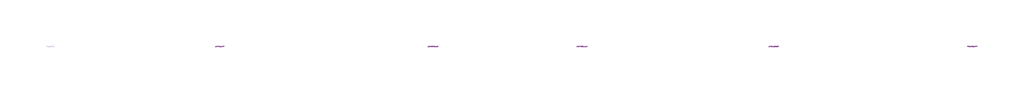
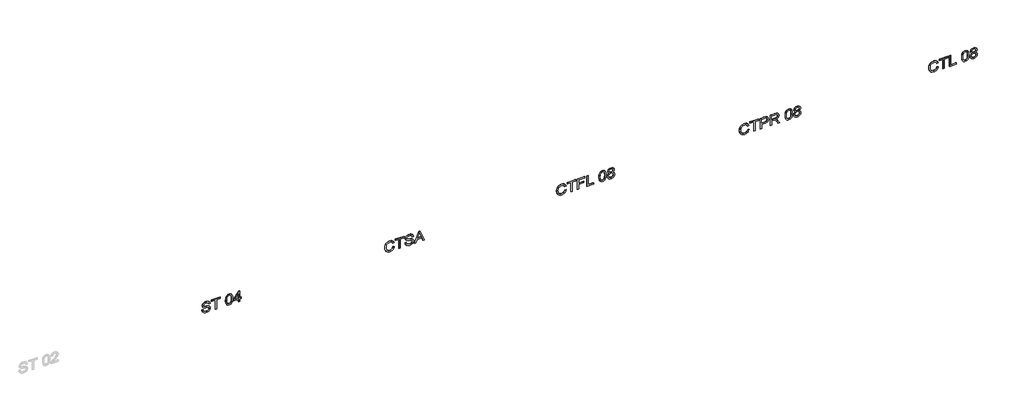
# One storey, part 2 of 2: 5 proxies.
"""IFC4 building model written with IfcOpenShell, lengths in millimetres."""

from ifc_helpers import new_model, si_unit, frame, origin, place, context, project, spatial, polyline, outline, extrude, element, save

model = new_model("IFC4")

# Units and contexts
model_context = context("Model", 3, world=origin())
ifc_project = project(units=[si_unit("LENGTHUNIT", "METRE", prefix="MILLI")], contexts=[model_context])

# Site, building, storey
site = spatial("IfcSite", under=ifc_project)
building = spatial("IfcBuilding", under=site)
storey = spatial("IfcBuildingStorey", under=building, Name="04 - Marelli - Planta Baixa - Acessórios", Elevation=-36000.0)

# Proxies
placement = place(None, origin())
element("IfcBuildingElementProxy", 1, Name="300mm Arial", ObjectType="300mm Arial", at=placement, inside=storey, context=model_context, shape_type="SweptSolid", body=[
    extrude(outline(polyline([(-30192.872763, 28437.0914479), (-30225.136014, 28424.9053568), (-30248.3493679, 28405.1225025), (-30262.3656719, 28378.9201074), (-30267.0377732, 28347.4753938), (-30263.6072736, 28320.5004465), (-30253.3157748, 28295.4936679), (-30236.0897004, 28274.6347588), (-30211.855474, 28260.10342), (-30181.7627268, 28251.5777547), (-30146.96109, 28248.7358663), (-30118.5422059, 28251.1362964), (-30090.9694503, 28258.3375864), (-30066.5788741, 28271.4617766), (-30047.7065277, 28291.630907), (-30035.6216042, 28318.2103811), (-30031.5932963, 28350.5656026), (-30035.226131, 28378.6349988), (-30046.1246351, 28401.4804707), (-30064.9693903, 28419.3227475), (-30092.4409783, 28432.3825583), (-30083.4646576, 28470.0536746), (-30045.6463885, 28453.4162114), (-30030.3241034, 28441.6140971), (-30017.3930513, 28427.4897278), (-30007.1245451, 28411.3098178), (-29999.7898978, 28393.3410816), (-29993.92218, 28352.0371306), (-29998.4563256, 28314.1820733), (-30012.0587624, 28279.6379539), (-30034.3983965, 28250.510897), (-30065.1441343, 28228.9070268), (-30103.0911621, 28215.5253192), (-30147.0346664, 28211.06475), (-30188.6973024, 28215.0102844), (-30227.6008233, 28226.8468876), (-30260.6918088, 28246.2342688), (-30284.9168382, 28272.832137), (-30299.7608767, 28307.5326062), (-30304.7088895, 28351.2277902), (-30303.0741139, 28373.6501978), (-30298.1697871, 28394.2699836), (-30289.995909, 28413.0871477), (-30278.5524797, 28430.10169), (-30263.995849, 28444.9779181), (-30246.4823668, 28457.3801399), (-30226.012033, 28467.3083552), (-30202.5848477, 28474.7625642), (-30192.872763, 28437.0914479)])), frame((0.0, 8778.3159498, 0.0), z_axis=(0.0, 1.0, 0.0), x_axis=(0.0, 0.0, 1.0)), (0.0, 0.0, 1.0), 10.0),
    extrude(outline(polyline([(-30300.0, 28601.9025817), (-30300.0, 28639.573698), (-30036.3021859, 28639.573698), (-30036.3021859, 28738.4603783), (-29998.6310696, 28738.4603783), (-29998.6310696, 28503.0159014), (-30036.3021859, 28503.0159014), (-30036.3021859, 28601.9025817), (-30300.0, 28601.9025817)])), frame((0.0, 8778.3159498, 0.0), z_axis=(0.0, 1.0, 0.0), x_axis=(0.0, 0.0, 1.0)), (0.0, 0.0, 1.0), 10.0),
    extrude(outline(polyline([(-30300.0, 28780.8403842), (-30300.0, 28969.1959657), (-30262.3288837, 28969.1959657), (-30262.3288837, 28818.5115005), (-29998.6310696, 28818.5115005), (-29998.6310696, 28780.8403842), (-30300.0, 28780.8403842)])), frame((0.0, 8778.3159498, 0.0), z_axis=(0.0, 1.0, 0.0), x_axis=(0.0, 0.0, 1.0)), (0.0, 0.0, 1.0), 10.0),
    extrude(outline(polyline([(-30151.7435559, 29115.1715414), (-30191.1851044, 29117.0477395), (-30225.0440435, 29122.6763341), (-30253.3203733, 29132.057325), (-30276.0140939, 29145.1907122), (-30288.568067, 29158.8759224), (-30297.5351906, 29174.9155774), (-30302.9154648, 29193.3096771), (-30304.7088895, 29214.0582217), (-30300.5794141, 29244.5096538), (-30288.190988, 29269.2037328), (-30267.4056552, 29288.3060054), (-30238.0854602, 29301.9820185), (-30199.7061711, 29310.2041811), (-30151.7435559, 29312.944902), (-30111.7823742, 29311.2342507), (-30080.9262719, 29306.1022969), (-30056.6276661, 29298.2664104), (-30036.3389741, 29288.4439611), (-30020.1981515, 29275.4393326), (-30008.3431542, 29258.0569083), (-30001.0590907, 29237.2715756), (-29998.6310696, 29214.0582217), (-30002.7329538, 29183.7723364), (-30015.0386065, 29159.1334398), (-30035.7411658, 29140.003576), (-30065.0337697, 29126.2447894), (-30103.5050293, 29117.9398534), (-30151.7435559, 29115.1715414)]), holes=[polyline([(-30151.6699795, 29152.8426577), (-30093.1767423, 29157.4043944), (-30072.097104, 29163.1065653), (-30056.4621192, 29171.0896046), (-30041.3421692, 29190.0355274), (-30036.3021859, 29213.6167633), (-30042.0227509, 29238.5223744), (-30059.184446, 29258.2040611), (-30073.5456393, 29265.6720656), (-30093.7469594, 29271.0063545), (-30151.6699795, 29275.2737857), (-30210.8346014, 29270.8592017), (-30231.0980016, 29265.3409718), (-30245.1487945, 29257.6154499), (-30261.5655286, 29237.896975), (-30267.0377732, 29214.0582217), (-30261.5839227, 29190.2194684), (-30245.2223709, 29170.5009934), (-30231.1945706, 29162.7754715), (-30210.9265719, 29157.2572416), (-30151.6699795, 29152.8426577)])]), frame((0.0, 8778.3159498, 0.0), z_axis=(0.0, 1.0, 0.0), x_axis=(0.0, 0.0, 1.0)), (0.0, 0.0, 1.0), 10.0),
    extrude(outline(polyline([(-30134.0116438, 29400.7951224), (-30144.4962806, 29377.4714039), (-30161.3820642, 29360.1809502), (-30183.8964423, 29349.4755841), (-30211.2668628, 29345.9071287), (-30230.4174199, 29347.608583), (-30247.9171065, 29352.7129457), (-30263.7659227, 29361.2202168), (-30277.9638685, 29373.1303964), (-30289.6648152, 29387.818085), (-30298.0226343, 29404.6578834), (-30303.0373257, 29423.6497914), (-30304.7088895, 29444.7938091), (-30303.0442235, 29465.9378267), (-30298.0502254, 29484.9297347), (-30289.7268953, 29501.7695331), (-30278.0742331, 29516.4572217), (-30263.9751556, 29528.3674013), (-30248.3125797, 29536.8746724), (-30231.0865053, 29541.9790351), (-30212.2969324, 29543.6804894), (-30185.9473844, 29540.2499898), (-30163.552568, 29529.9584909), (-30145.9586116, 29513.0819044), (-30134.0116438, 29489.8961417), (-30124.1064211, 29509.4214786), (-30110.7247135, 29523.2630386), (-30094.2895853, 29531.5127924), (-30075.2241009, 29534.2627103), (-30059.8282394, 29532.7176059), (-30045.6463885, 29528.0822928), (-30032.6785482, 29520.3567709), (-30020.9247185, 29509.5410402), (-30011.1712471, 29496.1915223), (-30004.2044818, 29480.8646387), (-29998.6310696, 29444.2787743), (-30004.0757231, 29407.913639), (-30010.88154, 29392.7523023), (-30020.4096837, 29379.6051195), (-30031.9381857, 29368.9825269), (-30044.7450776, 29361.3949607), (-30058.8303595, 29356.8424211), (-30074.1940314, 29355.3249078), (-30093.8941122, 29358.1116139), (-30110.6143489, 29366.4717323), (-30124.0788299, 29380.625992), (-30134.0116438, 29400.7951224)]), holes=[polyline([(-30075.2976773, 29392.9960241), (-30060.3984565, 29396.3897355), (-30047.7801041, 29406.5708698), (-30039.1716654, 29422.9140274), (-30036.3021859, 29444.7938091), (-30039.2360448, 29466.535635), (-30048.0376215, 29482.9063838), (-30061.1434176, 29493.1702914), (-30076.9899345, 29496.591594), (-30092.2570373, 29493.280656), (-30104.9489662, 29483.3478421), (-30113.5022225, 29467.1978226), (-30116.353308, 29445.2352674), (-30113.4838284, 29422.7484805), (-30104.8753898, 29406.3501406), (-30091.7420025, 29396.3345532), (-30075.2976773, 29392.9960241)]), polyline([(-30209.9424876, 29383.5782451), (-30187.9615384, 29387.5605677), (-30169.9905029, 29399.5075354), (-30158.015944, 29418.5546257), (-30154.0244243, 29443.8373159), (-30158.0711263, 29469.7729965), (-30170.2112321, 29489.4546833), (-30188.5317555, 29501.8707006), (-30211.11971, 29506.009373), (-30233.3305854, 29501.9994593), (-30251.2556356, 29489.9697181), (-30263.0922388, 29470.7294897), (-30267.0377732, 29445.0881146), (-30265.1615751, 29428.3494839), (-30259.5329805, 29412.1258879), (-30250.4738864, 29398.5786334), (-30238.3061894, 29389.8690272), (-30209.9424876, 29383.5782451)])]), frame((0.0, 8778.3159498, 0.0), z_axis=(0.0, 1.0, 0.0), x_axis=(0.0, 0.0, 1.0)), (0.0, 0.0, 1.0), 10.0),
])
element("IfcBuildingElementProxy", 2, Name="300mm Arial", ObjectType="300mm Arial", at=placement, inside=storey, context=model_context, shape_type="SweptSolid", body=[
    extrude(outline(polyline([(-30192.872763, 23262.8625349), (-30225.136014, 23250.6764439), (-30248.3493679, 23230.8935896), (-30262.3656719, 23204.6911945), (-30267.0377732, 23173.2464809), (-30263.6072736, 23146.2715336), (-30253.3157748, 23121.264755), (-30236.0897004, 23100.4058459), (-30211.855474, 23085.8745071), (-30181.7627268, 23077.3488418), (-30146.96109, 23074.5069534), (-30118.5422059, 23076.9073834), (-30090.9694503, 23084.1086735), (-30066.5788741, 23097.2328637), (-30047.7065277, 23117.4019941), (-30035.6216042, 23143.9814682), (-30031.5932963, 23176.3366897), (-30035.226131, 23204.4060859), (-30046.1246351, 23227.2515578), (-30064.9693903, 23245.0938346), (-30092.4409783, 23258.1536454), (-30083.4646576, 23295.8247617), (-30045.6463885, 23279.1872985), (-30030.3241034, 23267.3851842), (-30017.3930513, 23253.2608149), (-30007.1245451, 23237.0809049), (-29999.7898978, 23219.1121687), (-29993.92218, 23177.8082177), (-29998.4563256, 23139.9531604), (-30012.0587624, 23105.409041), (-30034.3983965, 23076.281984), (-30065.1441343, 23054.6781139), (-30103.0911621, 23041.2964063), (-30147.0346664, 23036.8358371), (-30188.6973024, 23040.7813715), (-30227.6008233, 23052.6179747), (-30260.6918088, 23072.0053559), (-30284.9168382, 23098.6032241), (-30299.7608767, 23133.3036933), (-30304.7088895, 23176.9988773), (-30303.0741139, 23199.4212849), (-30298.1697871, 23220.0410707), (-30289.995909, 23238.8582348), (-30278.5524797, 23255.872777), (-30263.995849, 23270.7490052), (-30246.4823668, 23283.151227), (-30226.012033, 23293.0794423), (-30202.5848477, 23300.5336513), (-30192.872763, 23262.8625349)])), frame((0.0, 8778.3159498, 0.0), z_axis=(0.0, 1.0, 0.0), x_axis=(0.0, 0.0, 1.0)), (0.0, 0.0, 1.0), 10.0),
    extrude(outline(polyline([(-30300.0, 23427.6736688), (-30300.0, 23465.3447851), (-30036.3021859, 23465.3447851), (-30036.3021859, 23564.2314654), (-29998.6310696, 23564.2314654), (-29998.6310696, 23328.7869885), (-30036.3021859, 23328.7869885), (-30036.3021859, 23427.6736688), (-30300.0, 23427.6736688)])), frame((0.0, 8778.3159498, 0.0), z_axis=(0.0, 1.0, 0.0), x_axis=(0.0, 0.0, 1.0)), (0.0, 0.0, 1.0), 10.0),
    extrude(outline(polyline([(-30300.0, 23606.6114712), (-30300.0, 23644.2825875), (-30177.568872, 23644.2825875), (-30177.568872, 23720.8756189), (-30175.904206, 23750.073953), (-30170.9102079, 23774.3932522), (-30162.5868778, 23793.8335164), (-30150.9342156, 23808.3947456), (-30136.8765248, 23819.0012434), (-30121.338109, 23826.5773132), (-30104.3189682, 23831.1229551), (-30085.8191024, 23832.6381691), (-30064.362385, 23830.3940889), (-30044.7266835, 23823.6618484), (-30028.0800233, 23813.2415909), (-30015.5904295, 23799.9334597), (-30006.8624292, 23783.4063611), (-30001.5005491, 23763.3292012), (-29998.6310696, 23718.300445), (-29998.6310696, 23606.6114712), (-30300.0, 23606.6114712)]), holes=[polyline([(-30139.8977557, 23644.2825875), (-30036.3021859, 23644.2825875), (-30036.3021859, 23722.1999941), (-30038.8773598, 23759.8711104), (-30045.2049301, 23774.0989466), (-30055.9470844, 23785.2917563), (-30070.2209058, 23792.5482287), (-30087.1434776, 23794.9670528), (-30109.4187324, 23790.8651685), (-30126.0653927, 23778.5595158), (-30136.4396649, 23756.4865961), (-30139.8977557, 23723.0829109), (-30139.8977557, 23644.2825875)])]), frame((0.0, 8778.3159498, 0.0), z_axis=(0.0, 1.0, 0.0), x_axis=(0.0, 0.0, 1.0)), (0.0, 0.0, 1.0), 10.0),
    extrude(outline(polyline([(-30300.0, 23884.435954), (-30300.0, 23922.1070703), (-30168.1510929, 23922.1070703), (-30168.1510929, 23967.5772849), (-30169.4754681, 23989.4294754), (-30176.649167, 24007.3453286), (-30196.183701, 24027.2477445), (-30237.5336372, 24055.5746582), (-30300.0, 24094.7908788), (-30300.0, 24138.5688363), (-30218.3301971, 24088.3161557), (-30179.5554348, 24057.7819501), (-30163.4422034, 24036.371218), (-30153.4542072, 24073.4813143), (-30145.4389783, 24087.863201), (-30135.4095954, 24099.4629802), (-30110.7982899, 24114.7760682), (-30081.1102129, 24119.8804309), (-30057.2438684, 24116.7994192), (-30035.5296337, 24107.5563841), (-30018.0184507, 24093.153804), (-30006.7612616, 24074.5941573), (-30000.6636176, 24049.2011026), (-29998.6310696, 24014.2982983), (-29998.6310696, 23884.435954), (-30300.0, 23884.435954)]), holes=[polyline([(-30130.4799766, 23922.1070703), (-30036.3021859, 23922.1070703), (-30036.3021859, 24015.9169791), (-30039.5579415, 24045.7246177), (-30049.3252085, 24066.2800242), (-30064.1324588, 24078.226992), (-30082.5081645, 24082.2093146), (-30095.8162956, 24080.1215843), (-30108.0759631, 24073.8583933), (-30118.2111121, 24063.5760915), (-30125.1456877, 24049.4310288), (-30129.1464044, 24030.6414559), (-30130.4799766, 24006.4256236), (-30130.4799766, 23922.1070703)])]), frame((0.0, 8778.3159498, 0.0), z_axis=(0.0, 1.0, 0.0), x_axis=(0.0, 0.0, 1.0)), (0.0, 0.0, 1.0), 10.0),
    extrude(outline(polyline([(-30151.7435559, 24289.4004543), (-30191.1851044, 24291.2766525), (-30225.0440435, 24296.905247), (-30253.3203733, 24306.2862379), (-30276.0140939, 24319.4196251), (-30288.568067, 24333.1048353), (-30297.5351906, 24349.1444903), (-30302.9154648, 24367.5385901), (-30304.7088895, 24388.2871346), (-30300.5794141, 24418.7385667), (-30288.190988, 24443.4326457), (-30267.4056552, 24462.5349183), (-30238.0854602, 24476.2109314), (-30199.7061711, 24484.433094), (-30151.7435559, 24487.1738149), (-30111.7823742, 24485.4631636), (-30080.9262719, 24480.3312098), (-30056.6276661, 24472.4953233), (-30036.3389741, 24462.672874), (-30020.1981515, 24449.6682455), (-30008.3431542, 24432.2858212), (-30001.0590907, 24411.5004885), (-29998.6310696, 24388.2871346), (-30002.7329538, 24358.0012493), (-30015.0386065, 24333.3623527), (-30035.7411658, 24314.232489), (-30065.0337697, 24300.4737023), (-30103.5050293, 24292.1687663), (-30151.7435559, 24289.4004543)]), holes=[polyline([(-30151.6699795, 24327.0715706), (-30093.1767423, 24331.6333073), (-30072.097104, 24337.3354783), (-30056.4621192, 24345.3185176), (-30041.3421692, 24364.2644403), (-30036.3021859, 24387.8456762), (-30042.0227509, 24412.7512873), (-30059.184446, 24432.432974), (-30073.5456393, 24439.9009785), (-30093.7469594, 24445.2352674), (-30151.6699795, 24449.5026986), (-30210.8346014, 24445.0881146), (-30231.0980016, 24439.5698847), (-30245.1487945, 24431.8443628), (-30261.5655286, 24412.1258879), (-30267.0377732, 24388.2871346), (-30261.5839227, 24364.4483813), (-30245.2223709, 24344.7299064), (-30231.1945706, 24337.0043845), (-30210.9265719, 24331.4861545), (-30151.6699795, 24327.0715706)])]), frame((0.0, 8778.3159498, 0.0), z_axis=(0.0, 1.0, 0.0), x_axis=(0.0, 0.0, 1.0)), (0.0, 0.0, 1.0), 10.0),
    extrude(outline(polyline([(-30134.0116438, 24575.0240353), (-30144.4962806, 24551.7003169), (-30161.3820642, 24534.4098631), (-30183.8964423, 24523.704497), (-30211.2668628, 24520.1360417), (-30230.4174199, 24521.8374959), (-30247.9171065, 24526.9418586), (-30263.7659227, 24535.4491297), (-30277.9638685, 24547.3593093), (-30289.6648152, 24562.046998), (-30298.0226343, 24578.8867963), (-30303.0373257, 24597.8787043), (-30304.7088895, 24619.022722), (-30303.0442235, 24640.1667396), (-30298.0502254, 24659.1586476), (-30289.7268953, 24675.998446), (-30278.0742331, 24690.6861346), (-30263.9751556, 24702.5963142), (-30248.3125797, 24711.1035854), (-30231.0865053, 24716.207948), (-30212.2969324, 24717.9094023), (-30185.9473844, 24714.4789027), (-30163.552568, 24704.1874039), (-30145.9586116, 24687.3108173), (-30134.0116438, 24664.1250546), (-30124.1064211, 24683.6503915), (-30110.7247135, 24697.4919515), (-30094.2895853, 24705.7417053), (-30075.2241009, 24708.4916232), (-30059.8282394, 24706.9465188), (-30045.6463885, 24702.3112057), (-30032.6785482, 24694.5856838), (-30020.9247185, 24683.7699531), (-30011.1712471, 24670.4204352), (-30004.2044818, 24655.0935516), (-29998.6310696, 24618.5076872), (-30004.0757231, 24582.142552), (-30010.88154, 24566.9812152), (-30020.4096837, 24553.8340324), (-30031.9381857, 24543.2114398), (-30044.7450776, 24535.6238737), (-30058.8303595, 24531.071334), (-30074.1940314, 24529.5538207), (-30093.8941122, 24532.3405269), (-30110.6143489, 24540.7006452), (-30124.0788299, 24554.854905), (-30134.0116438, 24575.0240353)]), holes=[polyline([(-30209.9424876, 24557.807158), (-30187.9615384, 24561.7894806), (-30169.9905029, 24573.7364484), (-30158.015944, 24592.7835387), (-30154.0244243, 24618.0662288), (-30158.0711263, 24644.0019094), (-30170.2112321, 24663.6835962), (-30188.5317555, 24676.0996135), (-30211.11971, 24680.238286), (-30233.3305854, 24676.2283722), (-30251.2556356, 24664.198631), (-30263.0922388, 24644.9584026), (-30267.0377732, 24619.3170276), (-30265.1615751, 24602.5783968), (-30259.5329805, 24586.3548008), (-30250.4738864, 24572.8075463), (-30238.3061894, 24564.0979401), (-30209.9424876, 24557.807158)]), polyline([(-30075.2976773, 24567.224937), (-30060.3984565, 24570.6186485), (-30047.7801041, 24580.7997827), (-30039.1716654, 24597.1429403), (-30036.3021859, 24619.022722), (-30039.2360448, 24640.7645479), (-30048.0376215, 24657.1352967), (-30061.1434176, 24667.3992043), (-30076.9899345, 24670.8205069), (-30092.2570373, 24667.5095689), (-30104.9489662, 24657.5767551), (-30113.5022225, 24641.4267355), (-30116.353308, 24619.4641804), (-30113.4838284, 24596.9773934), (-30104.8753898, 24580.5790535), (-30091.7420025, 24570.5634662), (-30075.2976773, 24567.224937)])]), frame((0.0, 8778.3159498, 0.0), z_axis=(0.0, 1.0, 0.0), x_axis=(0.0, 0.0, 1.0)), (0.0, 0.0, 1.0), 10.0),
])
element("IfcBuildingElementProxy", 3, Name="300mm Arial", ObjectType="300mm Arial", at=placement, inside=storey, context=model_context, shape_type="SweptSolid", body=[
    extrude(outline(polyline([(-30192.872763, 18262.8625349), (-30225.136014, 18250.6764439), (-30248.3493679, 18230.8935896), (-30262.3656719, 18204.6911945), (-30267.0377732, 18173.2464809), (-30263.6072736, 18146.2715336), (-30253.3157748, 18121.264755), (-30236.0897004, 18100.4058459), (-30211.855474, 18085.8745071), (-30181.7627268, 18077.3488418), (-30146.96109, 18074.5069534), (-30118.5422059, 18076.9073834), (-30090.9694503, 18084.1086735), (-30066.5788741, 18097.2328637), (-30047.7065277, 18117.4019941), (-30035.6216042, 18143.9814682), (-30031.5932963, 18176.3366897), (-30035.226131, 18204.4060859), (-30046.1246351, 18227.2515578), (-30064.9693903, 18245.0938346), (-30092.4409783, 18258.1536454), (-30083.4646576, 18295.8247617), (-30045.6463885, 18279.1872985), (-30030.3241034, 18267.3851842), (-30017.3930513, 18253.2608149), (-30007.1245451, 18237.0809049), (-29999.7898978, 18219.1121687), (-29993.92218, 18177.8082177), (-29998.4563256, 18139.9531604), (-30012.0587624, 18105.409041), (-30034.3983965, 18076.281984), (-30065.1441343, 18054.6781139), (-30103.0911621, 18041.2964063), (-30147.0346664, 18036.8358371), (-30188.6973024, 18040.7813715), (-30227.6008233, 18052.6179747), (-30260.6918088, 18072.0053559), (-30284.9168382, 18098.6032241), (-30299.7608767, 18133.3036933), (-30304.7088895, 18176.9988773), (-30303.0741139, 18199.4212849), (-30298.1697871, 18220.0410707), (-30289.995909, 18238.8582348), (-30278.5524797, 18255.872777), (-30263.995849, 18270.7490052), (-30246.4823668, 18283.151227), (-30226.012033, 18293.0794423), (-30202.5848477, 18300.5336513), (-30192.872763, 18262.8625349)])), frame((0.0, 8778.3159498, 0.0), z_axis=(0.0, 1.0, 0.0), x_axis=(0.0, 0.0, 1.0)), (0.0, 0.0, 1.0), 10.0),
    extrude(outline(polyline([(-30300.0, 18427.6736688), (-30300.0, 18465.3447851), (-30036.3021859, 18465.3447851), (-30036.3021859, 18564.2314654), (-29998.6310696, 18564.2314654), (-29998.6310696, 18328.7869885), (-30036.3021859, 18328.7869885), (-30036.3021859, 18427.6736688), (-30300.0, 18427.6736688)])), frame((0.0, 8778.3159498, 0.0), z_axis=(0.0, 1.0, 0.0), x_axis=(0.0, 0.0, 1.0)), (0.0, 0.0, 1.0), 10.0),
    extrude(outline(polyline([(-30300.0, 18606.6114712), (-30300.0, 18644.2825875), (-30163.4422034, 18644.2825875), (-30163.4422034, 18785.5492737), (-30125.7710871, 18785.5492737), (-30125.7710871, 18644.2825875), (-30036.3021859, 18644.2825875), (-30036.3021859, 18809.0937214), (-29998.6310696, 18809.0937214), (-29998.6310696, 18606.6114712), (-30300.0, 18606.6114712)])), frame((0.0, 8778.3159498, 0.0), z_axis=(0.0, 1.0, 0.0), x_axis=(0.0, 0.0, 1.0)), (0.0, 0.0, 1.0), 10.0),
    extrude(outline(polyline([(-30300.0, 18860.8915063), (-30300.0, 19049.2470878), (-30262.3288837, 19049.2470878), (-30262.3288837, 18898.5626226), (-29998.6310696, 18898.5626226), (-29998.6310696, 18860.8915063), (-30300.0, 18860.8915063)])), frame((0.0, 8778.3159498, 0.0), z_axis=(0.0, 1.0, 0.0), x_axis=(0.0, 0.0, 1.0)), (0.0, 0.0, 1.0), 10.0),
    extrude(outline(polyline([(-30151.7435559, 19195.2226635), (-30191.1851044, 19197.0988617), (-30225.0440435, 19202.7274562), (-30253.3203733, 19212.1084471), (-30276.0140939, 19225.2418343), (-30288.568067, 19238.9270446), (-30297.5351906, 19254.9666995), (-30302.9154648, 19273.3607993), (-30304.7088895, 19294.1093438), (-30300.5794141, 19324.560776), (-30288.190988, 19349.2548549), (-30267.4056552, 19368.3571275), (-30238.0854602, 19382.0331407), (-30199.7061711, 19390.2553033), (-30151.7435559, 19392.9960241), (-30111.7823742, 19391.2853729), (-30080.9262719, 19386.153419), (-30056.6276661, 19378.3175325), (-30036.3389741, 19368.4950833), (-30020.1981515, 19355.4904547), (-30008.3431542, 19338.1080305), (-30001.0590907, 19317.3226977), (-29998.6310696, 19294.1093438), (-30002.7329538, 19263.8234586), (-30015.0386065, 19239.1845619), (-30035.7411658, 19220.0546982), (-30065.0337697, 19206.2959116), (-30103.5050293, 19197.9909755), (-30151.7435559, 19195.2226635)]), holes=[polyline([(-30151.6699795, 19232.8937798), (-30093.1767423, 19237.4555166), (-30072.097104, 19243.1576875), (-30056.4621192, 19251.1407268), (-30041.3421692, 19270.0866495), (-30036.3021859, 19293.6678854), (-30042.0227509, 19318.5734965), (-30059.184446, 19338.2551832), (-30073.5456393, 19345.7231878), (-30093.7469594, 19351.0574767), (-30151.6699795, 19355.3249078), (-30210.8346014, 19350.9103239), (-30231.0980016, 19345.392094), (-30245.1487945, 19337.6665721), (-30261.5655286, 19317.9480971), (-30267.0377732, 19294.1093438), (-30261.5839227, 19270.2705905), (-30245.2223709, 19250.5521156), (-30231.1945706, 19242.8265937), (-30210.9265719, 19237.3083638), (-30151.6699795, 19232.8937798)])]), frame((0.0, 8778.3159498, 0.0), z_axis=(0.0, 1.0, 0.0), x_axis=(0.0, 0.0, 1.0)), (0.0, 0.0, 1.0), 10.0),
    extrude(outline(polyline([(-30134.0116438, 19480.8462446), (-30144.4962806, 19457.5225261), (-30161.3820642, 19440.2320723), (-30183.8964423, 19429.5267063), (-30211.2668628, 19425.9582509), (-30230.4174199, 19427.6597051), (-30247.9171065, 19432.7640678), (-30263.7659227, 19441.2713389), (-30277.9638685, 19453.1815185), (-30289.6648152, 19467.8692072), (-30298.0226343, 19484.7090055), (-30303.0373257, 19503.7009135), (-30304.7088895, 19524.8449312), (-30303.0442235, 19545.9889489), (-30298.0502254, 19564.9808569), (-30289.7268953, 19581.8206552), (-30278.0742331, 19596.5083439), (-30263.9751556, 19608.4185235), (-30248.3125797, 19616.9257946), (-30231.0865053, 19622.0301573), (-30212.2969324, 19623.7316115), (-30185.9473844, 19620.3011119), (-30163.552568, 19610.0096131), (-30145.9586116, 19593.1330266), (-30134.0116438, 19569.9472638), (-30124.1064211, 19589.4726007), (-30110.7247135, 19603.3141608), (-30094.2895853, 19611.5639145), (-30075.2241009, 19614.3138324), (-30059.8282394, 19612.768728), (-30045.6463885, 19608.1334149), (-30032.6785482, 19600.407893), (-30020.9247185, 19589.5921624), (-30011.1712471, 19576.2426445), (-30004.2044818, 19560.9157608), (-29998.6310696, 19524.3298964), (-30004.0757231, 19487.9647612), (-30010.88154, 19472.8034245), (-30020.4096837, 19459.6562417), (-30031.9381857, 19449.033649), (-30044.7450776, 19441.4460829), (-30058.8303595, 19436.8935432), (-30074.1940314, 19435.37603), (-30093.8941122, 19438.1627361), (-30110.6143489, 19446.5228544), (-30124.0788299, 19460.6771142), (-30134.0116438, 19480.8462446)]), holes=[polyline([(-30209.9424876, 19463.6293672), (-30187.9615384, 19467.6116898), (-30169.9905029, 19479.5586576), (-30158.015944, 19498.6057479), (-30154.0244243, 19523.888438), (-30158.0711263, 19549.8241187), (-30170.2112321, 19569.5058054), (-30188.5317555, 19581.9218228), (-30211.11971, 19586.0604952), (-30233.3305854, 19582.0505815), (-30251.2556356, 19570.0208402), (-30263.0922388, 19550.7806119), (-30267.0377732, 19525.1392368), (-30265.1615751, 19508.400606), (-30259.5329805, 19492.17701), (-30250.4738864, 19478.6297556), (-30238.3061894, 19469.9201493), (-30209.9424876, 19463.6293672)]), polyline([(-30075.2976773, 19473.0471463), (-30060.3984565, 19476.4408577), (-30047.7801041, 19486.6219919), (-30039.1716654, 19502.9651495), (-30036.3021859, 19524.8449312), (-30039.2360448, 19546.5867571), (-30048.0376215, 19562.9575059), (-30061.1434176, 19573.2214136), (-30076.9899345, 19576.6427161), (-30092.2570373, 19573.3317782), (-30104.9489662, 19563.3989643), (-30113.5022225, 19547.2489447), (-30116.353308, 19525.2863896), (-30113.4838284, 19502.7996026), (-30104.8753898, 19486.4012627), (-30091.7420025, 19476.3856754), (-30075.2976773, 19473.0471463)])]), frame((0.0, 8778.3159498, 0.0), z_axis=(0.0, 1.0, 0.0), x_axis=(0.0, 0.0, 1.0)), (0.0, 0.0, 1.0), 10.0),
])
element("IfcBuildingElementProxy", 4, Name="300mm Arial", ObjectType="300mm Arial", at=placement, inside=storey, context=model_context, shape_type="SweptSolid", body=[
    extrude(outline(polyline([(-30192.872763, 13564.2314654), (-30225.136014, 13552.0453743), (-30248.3493679, 13532.26252), (-30262.3656719, 13506.0601249), (-30267.0377732, 13474.6154114), (-30263.6072736, 13447.6404641), (-30253.3157748, 13422.6336855), (-30236.0897004, 13401.7747763), (-30211.855474, 13387.2434375), (-30181.7627268, 13378.7177723), (-30146.96109, 13375.8758839), (-30118.5422059, 13378.2763139), (-30090.9694503, 13385.4776039), (-30066.5788741, 13398.6017941), (-30047.7065277, 13418.7709245), (-30035.6216042, 13445.3503987), (-30031.5932963, 13477.7056201), (-30035.226131, 13505.7750164), (-30046.1246351, 13528.6204883), (-30064.9693903, 13546.462765), (-30092.4409783, 13559.5225759), (-30083.4646576, 13597.1936922), (-30045.6463885, 13580.5562289), (-30030.3241034, 13568.7541147), (-30017.3930513, 13554.6297453), (-30007.1245451, 13538.4498353), (-29999.7898978, 13520.4810991), (-29993.92218, 13479.1771481), (-29998.4563256, 13441.3220908), (-30012.0587624, 13406.7779715), (-30034.3983965, 13377.6509145), (-30065.1441343, 13356.0470443), (-30103.0911621, 13342.6653368), (-30147.0346664, 13338.2047676), (-30188.6973024, 13342.150302), (-30227.6008233, 13353.9869052), (-30260.6918088, 13373.3742863), (-30284.9168382, 13399.9721546), (-30299.7608767, 13434.6726237), (-30304.7088895, 13478.3678077), (-30303.0741139, 13500.7902153), (-30298.1697871, 13521.4100012), (-30289.995909, 13540.2271652), (-30278.5524797, 13557.2417075), (-30263.995849, 13572.1179357), (-30246.4823668, 13584.5201574), (-30226.012033, 13594.4483728), (-30202.5848477, 13601.9025817), (-30192.872763, 13564.2314654)])), frame((0.0, 8778.3159498, 0.0), z_axis=(0.0, 1.0, 0.0), x_axis=(0.0, 0.0, 1.0)), (0.0, 0.0, 1.0), 10.0),
    extrude(outline(polyline([(-30300.0, 13729.0425992), (-30300.0, 13766.7137155), (-30036.3021859, 13766.7137155), (-30036.3021859, 13865.6003958), (-29998.6310696, 13865.6003958), (-29998.6310696, 13630.1559189), (-30036.3021859, 13630.1559189), (-30036.3021859, 13729.0425992), (-30300.0, 13729.0425992)])), frame((0.0, 8778.3159498, 0.0), z_axis=(0.0, 1.0, 0.0), x_axis=(0.0, 0.0, 1.0)), (0.0, 0.0, 1.0), 10.0),
    extrude(outline(polyline([(-30196.4044302, 13893.8537331), (-30226.8282712, 13898.3234993), (-30253.9411742, 13910.1141173), (-30276.1980349, 13928.4806259), (-30292.0537489, 13952.6780641), (-30301.5451044, 13983.0559199), (-30304.7088895, 14019.963681), (-30301.7750306, 14050.0288371), (-30292.9734539, 14076.9486021), (-30278.8835735, 14099.3342215), (-30260.0848035, 14115.7969408), (-30238.2418101, 14125.9228927), (-30215.0192591, 14129.29821), (-30192.3025459, 14126.3643511), (-30172.4185241, 14117.5627743), (-30155.5511346, 14102.5807801), (-30141.8843185, 14081.1056686), (-30133.0735447, 14055.9793283), (-30122.9751839, 14014.4454511), (-30112.3433943, 13974.1991608), (-30101.9323338, 13952.9355815), (-30090.2888686, 13943.9408667), (-30075.8127121, 13940.9426285), (-30058.8349581, 13945.1732714), (-30044.5427425, 13957.8652002), (-30034.8306579, 13979.8093612), (-30031.5932963, 14011.7967007), (-30034.8674461, 14043.0482762), (-30044.6898953, 14065.5810484), (-30060.9134913, 14080.0020226), (-30083.3910812, 14086.9182041), (-30083.3910812, 14124.5893204), (-30058.4302879, 14120.3402834), (-30036.2286095, 14109.6533114), (-30017.9264802, 14092.7675279), (-30004.6643343, 14069.922056), (-29996.6077186, 14042.1101771), (-29993.92218, 14010.3251727), (-29996.4881569, 13980.9865836), (-30004.1860877, 13954.4806859), (-30016.8412283, 13932.3985691), (-30034.2788349, 13916.331323), (-30054.8526355, 13906.5364649), (-30076.9163581, 13903.2715122), (-30096.6532272, 13905.9110655), (-30114.3667452, 13913.8297254), (-30129.7258185, 13927.1194625), (-30142.3993533, 13945.8722472), (-30151.4584474, 13968.9108571), (-30160.977394, 14004.9173074), (-30175.36158, 14059.7685129), (-30183.1698754, 14075.8449561), (-30192.4680928, 14085.3730998), (-30203.3665969, 14090.0635952), (-30215.9757523, 14091.6270937), (-30228.9160015, 14089.5393634), (-30241.2492454, 14083.2761724), (-30251.9913996, 14072.7455503), (-30260.1583799, 14057.8555265), (-30265.3179249, 14039.4798209), (-30267.0377732, 14018.492153), (-30264.7661019, 13994.6533998), (-30257.951088, 13973.316244), (-30247.448057, 13955.8602434), (-30234.1123347, 13943.6649552), (-30217.3093245, 13935.8474628), (-30196.4044302, 13931.5248494), (-30196.4044302, 13893.8537331)])), frame((0.0, 8778.3159498, 0.0), z_axis=(0.0, 1.0, 0.0), x_axis=(0.0, 0.0, 1.0)), (0.0, 0.0, 1.0), 10.0),
    extrude(outline(polyline([(-30300.0, 14150.7089421), (-30300.0, 14190.513774), (-30205.8222092, 14224.9475287), (-30205.8222092, 14349.0709139), (-30300.0, 14383.5782451), (-30300.0, 14423.3830769), (-29998.6310696, 14303.0856645), (-29998.6310696, 14271.0063545), (-30300.0, 14150.7089421)]), holes=[polyline([(-30168.1510929, 14238.7798918), (-30087.584936, 14268.2840278), (-30036.3021859, 14287.0460095), (-30094.0596591, 14308.162436), (-30168.1510929, 14335.3121273), (-30168.1510929, 14238.7798918)])]), frame((0.0, 8778.3159498, 0.0), z_axis=(0.0, 1.0, 0.0), x_axis=(0.0, 0.0, 1.0)), (0.0, 0.0, 1.0), 10.0),
])
element("IfcBuildingElementProxy", 5, Name="300mm Arial", ObjectType="300mm Arial", at=placement, inside=storey, context=model_context, shape_type="SweptSolid", body=[
    extrude(outline(polyline([(-30196.4044302, 8338.2047676), (-30226.8282712, 8342.6745338), (-30253.9411742, 8354.4651517), (-30276.1980349, 8372.8316604), (-30292.0537489, 8397.0290986), (-30301.5451044, 8427.4069543), (-30304.7088895, 8464.3147155), (-30301.7750306, 8494.3798716), (-30292.9734539, 8521.2996366), (-30278.8835735, 8543.685256), (-30260.0848035, 8560.1479753), (-30238.2418101, 8570.2739272), (-30215.0192591, 8573.6492445), (-30192.3025459, 8570.7153856), (-30172.4185241, 8561.9138088), (-30155.5511346, 8546.9318146), (-30141.8843185, 8525.4567031), (-30133.0735447, 8500.3303628), (-30122.9751839, 8458.7964856), (-30112.3433943, 8418.5501953), (-30101.9323338, 8397.286616), (-30090.2888686, 8388.2919012), (-30075.8127121, 8385.2936629), (-30058.8349581, 8389.5243059), (-30044.5427425, 8402.2162347), (-30034.8306579, 8424.1603957), (-30031.5932963, 8456.1477352), (-30034.8674461, 8487.3993107), (-30044.6898953, 8509.9320829), (-30060.9134913, 8524.3530571), (-30083.3910812, 8531.2692386), (-30083.3910812, 8568.9403549), (-30058.4302879, 8564.6913179), (-30036.2286095, 8554.0043459), (-30017.9264802, 8537.1185624), (-30004.6643343, 8514.2730905), (-29996.6077186, 8486.4612116), (-29993.92218, 8454.6762072), (-29996.4881569, 8425.3376181), (-30004.1860877, 8398.8317204), (-30016.8412283, 8376.7496036), (-30034.2788349, 8360.6823575), (-30054.8526355, 8350.8874993), (-30076.9163581, 8347.6225466), (-30096.6532272, 8350.2621), (-30114.3667452, 8358.1807599), (-30129.7258185, 8371.470497), (-30142.3993533, 8390.2232817), (-30151.4584474, 8413.2618916), (-30160.977394, 8449.2683419), (-30175.36158, 8504.1195474), (-30183.1698754, 8520.1959906), (-30192.4680928, 8529.7241342), (-30203.3665969, 8534.4146297), (-30215.9757523, 8535.9781282), (-30228.9160015, 8533.8903978), (-30241.2492454, 8527.6272069), (-30251.9913996, 8517.0965848), (-30260.1583799, 8502.206561), (-30265.3179249, 8483.8308554), (-30267.0377732, 8462.8431875), (-30264.7661019, 8439.0044342), (-30257.951088, 8417.6672785), (-30247.448057, 8400.2112778), (-30234.1123347, 8388.0159897), (-30217.3093245, 8380.1984973), (-30196.4044302, 8375.8758839), (-30196.4044302, 8338.2047676)])), frame((0.0, 8778.3159498, 0.0), z_axis=(0.0, 1.0, 0.0), x_axis=(0.0, 0.0, 1.0)), (0.0, 0.0, 1.0), 10.0),
    extrude(outline(polyline([(-30300.0, 8705.4981515), (-30300.0, 8743.1692679), (-30036.3021859, 8743.1692679), (-30036.3021859, 8842.0559482), (-29998.6310696, 8842.0559482), (-29998.6310696, 8606.6114712), (-30036.3021859, 8606.6114712), (-30036.3021859, 8705.4981515), (-30300.0, 8705.4981515)])), frame((0.0, 8778.3159498, 0.0), z_axis=(0.0, 1.0, 0.0), x_axis=(0.0, 0.0, 1.0)), (0.0, 0.0, 1.0), 10.0),
    extrude(outline(polyline([(-30151.7435559, 8988.0315238), (-30191.1851044, 8989.907722), (-30225.0440435, 8995.5363165), (-30253.3203733, 9004.9173074), (-30276.0140939, 9018.0506946), (-30288.568067, 9031.7359049), (-30297.5351906, 9047.7755599), (-30302.9154648, 9066.1696596), (-30304.7088895, 9086.9182041), (-30300.5794141, 9117.3696363), (-30288.190988, 9142.0637152), (-30267.4056552, 9161.1659878), (-30238.0854602, 9174.842001), (-30199.7061711, 9183.0641636), (-30151.7435559, 9185.8048844), (-30111.7823742, 9184.0942332), (-30080.9262719, 9178.9622793), (-30056.6276661, 9171.1263928), (-30036.3389741, 9161.3039436), (-30020.1981515, 9148.299315), (-30008.3431542, 9130.9168908), (-30001.0590907, 9110.131558), (-29998.6310696, 9086.9182041), (-30002.7329538, 9056.6323189), (-30015.0386065, 9031.9934223), (-30035.7411658, 9012.8635585), (-30065.0337697, 8999.1047719), (-30103.5050293, 8990.7998359), (-30151.7435559, 8988.0315238)]), holes=[polyline([(-30151.6699795, 9025.7026401), (-30093.1767423, 9030.2643769), (-30072.097104, 9035.9665478), (-30056.4621192, 9043.9495871), (-30041.3421692, 9062.8955099), (-30036.3021859, 9086.4767457), (-30042.0227509, 9111.3823568), (-30059.184446, 9131.0640436), (-30073.5456393, 9138.5320481), (-30093.7469594, 9143.866337), (-30151.6699795, 9148.1337681), (-30210.8346014, 9143.7191842), (-30231.0980016, 9138.2009543), (-30245.1487945, 9130.4754324), (-30261.5655286, 9110.7569574), (-30267.0377732, 9086.9182041), (-30261.5839227, 9063.0794509), (-30245.2223709, 9043.3609759), (-30231.1945706, 9035.635454), (-30210.9265719, 9030.1172241), (-30151.6699795, 9025.7026401)])]), frame((0.0, 8778.3159498, 0.0), z_axis=(0.0, 1.0, 0.0), x_axis=(0.0, 0.0, 1.0)), (0.0, 0.0, 1.0), 10.0),
    extrude(outline(polyline([(-30300.0, 9341.1982392), (-30300.0, 9378.8693555), (-30229.3666569, 9378.8693555), (-30229.3666569, 9416.5404718), (-30191.6955406, 9416.5404718), (-30191.6955406, 9378.8693555), (-30003.3399591, 9378.8693555), (-30003.3399591, 9350.6160183), (-30191.6955406, 9204.6404426), (-30229.3666569, 9204.6404426), (-30229.3666569, 9341.1982392), (-30300.0, 9341.1982392)]), holes=[polyline([(-30191.6955406, 9341.1982392), (-30191.6955406, 9250.993574), (-30075.2976773, 9341.1982392), (-30191.6955406, 9341.1982392)])]), frame((0.0, 8778.3159498, 0.0), z_axis=(0.0, 1.0, 0.0), x_axis=(0.0, 0.0, 1.0)), (0.0, 0.0, 1.0), 10.0),
])

save(model, "model.ifc")
